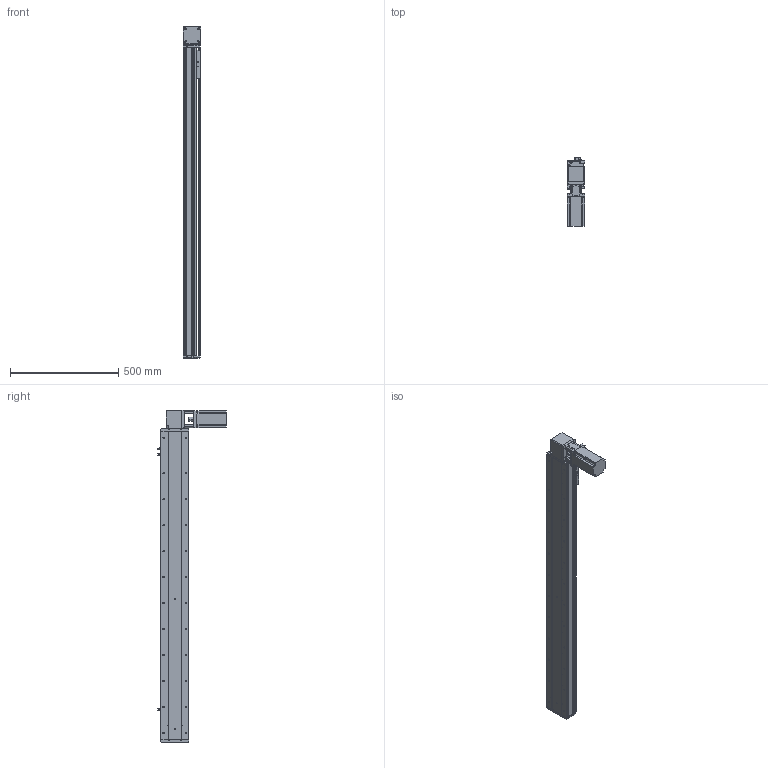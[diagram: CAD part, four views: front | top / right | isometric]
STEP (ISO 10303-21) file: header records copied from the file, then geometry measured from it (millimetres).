
FILE_DESCRIPTION (( 'STEP AP214' ), '1' );
FILE_NAME ('KSD130B-S1200-MLT-CM.STEP', '2019-09-23T07:27:13', ( '微软用户' ), ( '微软中国' ), 'SwSTEP 2.0', 'SolidWorks 2014', '' );
FILE_SCHEMA (( 'AUTOMOTIVE_DESIGN' ));
Length unit declared in the file: millimetre
Products named in the file (12): 台达ECMA－C20807AS伺服电机; 130宽马达安装板1-带电机座750W（1）; 覜茼え100遵圉猾敕; U倰嫖萇EEㄜSX672; 130宽安装板同步带带电机座750W; 130宽盖板半封闭同步带-1200行程; 130宽马达安装板同步带左-改; 130宽马达安装板同步带半封闭; 130宽同步带安装座半封闭; 130宽端盖同步带半封闭; 130宽底板半封闭同步带-1200行程; KSD130B-S1200-MLT-CM
Assembly tree (13 placements, depth 2):
  KSD130B-S1200-MLT-CM
    130宽底板半封闭同步带-1200行程
    130宽端盖同步带半封闭
    130宽同步带安装座半封闭
    130宽马达安装板同步带半封闭
    130宽马达安装板同步带左-改
    130宽盖板半封闭同步带-1200行程
    130宽安装板同步带带电机座750W
    U倰嫖萇EEㄜSX672  x3
    覜茼え100遵圉猾敕
    130宽马达安装板1-带电机座750W（1）
    台达ECMA－C20807AS伺服电机
Bounding box: 81 x 316 x 1533 mm (x, y, z)
Volume: 5503770.7 mm3; surface area: 1478140.1 mm2
Topology: 14 solids, 14 shells, 1567 faces, 4492 edges, 2861 vertices
Faces by surface type: cylinder 761, plane 613, cone 193
Entity records: 52007 total; most frequent: CARTESIAN_POINT 9763, DIRECTION 7894, ORIENTED_EDGE 7596, EDGE_CURVE 3798, AXIS2_PLACEMENT_3D 2904, VERTEX_POINT 2485, LINE 2086, VECTOR 2086
